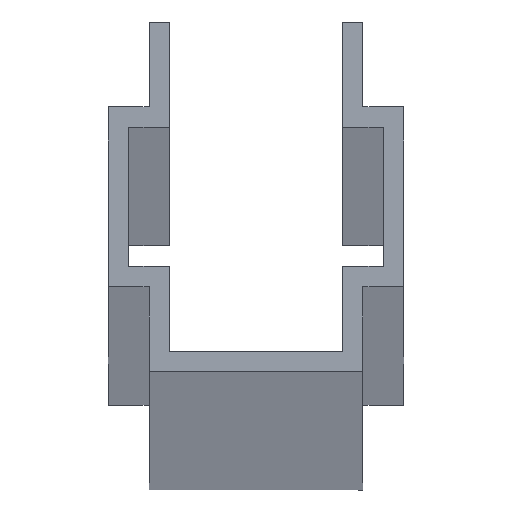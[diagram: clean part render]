
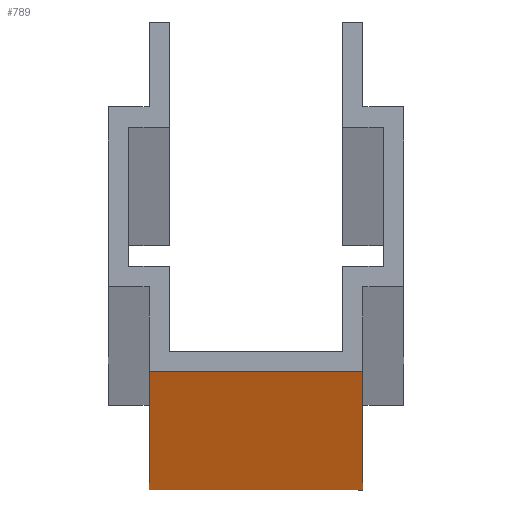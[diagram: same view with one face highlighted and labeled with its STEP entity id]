
A CAD part, top view. The second image highlights one B-rep face of the part: STEP entity #789.
In plain terms, the highlighted planar face has unit normal (0, -1, 0).
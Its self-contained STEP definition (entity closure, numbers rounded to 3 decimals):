
#733=CARTESIAN_POINT('',(3.15,-10.3,2000.));
#734=VERTEX_POINT('',#733);
#741=CARTESIAN_POINT('',(3.15,-10.3,0.0));
#742=VERTEX_POINT('',#741);
#743=CARTESIAN_POINT('',(3.15,-10.3,0.0));
#744=DIRECTION('',(0.0,0.0,1.0));
#745=VECTOR('',#744,2000.);
#746=LINE('',#743,#745);
#747=EDGE_CURVE('',#742,#734,#746,.T.);
#759=CARTESIAN_POINT('',(3.15,-10.3,0.0));
#760=DIRECTION('',(0.0,-1.0,0.0));
#761=DIRECTION('',(0.0,0.0,-1.0));
#762=AXIS2_PLACEMENT_3D('',#759,#760,#761);
#763=PLANE('',#762);
#764=CARTESIAN_POINT('',(-3.15,-10.3,2000.));
#765=VERTEX_POINT('',#764);
#766=CARTESIAN_POINT('',(3.15,-10.3,2000.));
#767=DIRECTION('',(-1.0,0.0,0.0));
#768=VECTOR('',#767,6.3);
#769=LINE('',#766,#768);
#770=EDGE_CURVE('',#734,#765,#769,.T.);
#771=ORIENTED_EDGE('',*,*,#770,.T.);
#772=CARTESIAN_POINT('',(-3.15,-10.3,0.0));
#773=VERTEX_POINT('',#772);
#774=CARTESIAN_POINT('',(-3.15,-10.3,0.0));
#775=DIRECTION('',(0.0,0.0,1.0));
#776=VECTOR('',#775,2000.);
#777=LINE('',#774,#776);
#778=EDGE_CURVE('',#773,#765,#777,.T.);
#779=ORIENTED_EDGE('',*,*,#778,.F.);
#780=CARTESIAN_POINT('',(3.15,-10.3,0.0));
#781=DIRECTION('',(-1.0,0.0,0.0));
#782=VECTOR('',#781,6.3);
#783=LINE('',#780,#782);
#784=EDGE_CURVE('',#742,#773,#783,.T.);
#785=ORIENTED_EDGE('',*,*,#784,.F.);
#786=ORIENTED_EDGE('',*,*,#747,.T.);
#787=EDGE_LOOP('',(#771,#779,#785,#786));
#788=FACE_OUTER_BOUND('',#787,.T.);
#789=ADVANCED_FACE('',(#788),#763,.T.);
